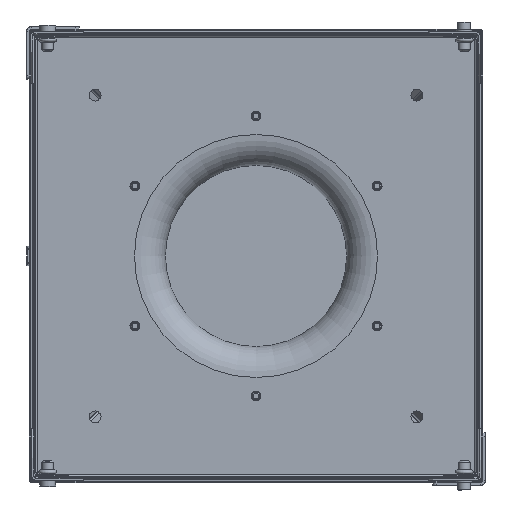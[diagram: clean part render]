
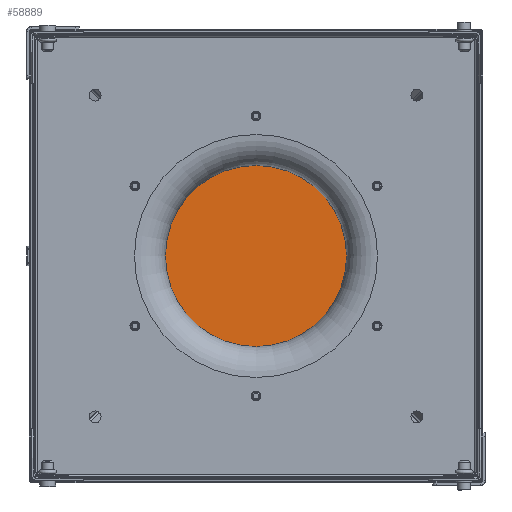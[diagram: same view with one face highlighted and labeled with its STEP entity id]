
A CAD part, front view. The second image highlights one B-rep face of the part: STEP entity #58889.
In plain terms, the highlighted planar face has unit normal (0, -1, 0).
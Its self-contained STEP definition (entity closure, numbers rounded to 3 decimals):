
#1500 = CARTESIAN_POINT ( 'NONE',  ( -70.928, 427.364, 70.928 ) ) ;
#6914 = CARTESIAN_POINT ( 'NONE',  ( 70.928, 427.364, 70.928 ) ) ;
#7425 = CARTESIAN_POINT ( 'NONE',  ( -70.928, 427.364, 70.928 ) ) ;
#9835 = ORIENTED_EDGE ( 'NONE', *, *, #164313, .F. ) ;
#17638 = FACE_OUTER_BOUND ( 'NONE', #130723, .T. ) ;
#19882 = VECTOR ( 'NONE', #128183, 1000. ) ;
#20315 = EDGE_CURVE ( 'NONE', #112600, #26294, #140710, .T. ) ;
#20483 = DIRECTION ( 'NONE',  ( 1., 0., 0. ) ) ;
#26294 = VERTEX_POINT ( 'NONE', #117557 ) ;
#33368 = VECTOR ( 'NONE', #153114, 1000. ) ;
#35486 = ORIENTED_EDGE ( 'NONE', *, *, #112952, .F. ) ;
#39472 = VERTEX_POINT ( 'NONE', #1500 ) ;
#41370 = AXIS2_PLACEMENT_3D ( 'NONE', #145692, #158698, #81269 ) ;
#58889 = ADVANCED_FACE ( 'NONE', ( #17638 ), #68259, .F. ) ;
#62690 = CARTESIAN_POINT ( 'NONE',  ( -70.928, 427.364, -70.928 ) ) ;
#63607 = LINE ( 'NONE', #62690, #33368 ) ;
#68259 = PLANE ( 'NONE',  #41370 ) ;
#71999 = VECTOR ( 'NONE', #80857, 1000. ) ;
#78050 = VERTEX_POINT ( 'NONE', #6914 ) ;
#80857 = DIRECTION ( 'NONE',  ( -1., 0., 0. ) ) ;
#81269 = DIRECTION ( 'NONE',  ( 0., 0., 1. ) ) ;
#89726 = VECTOR ( 'NONE', #20483, 1000. ) ;
#93808 = LINE ( 'NONE', #7425, #89726 ) ;
#112446 = ORIENTED_EDGE ( 'NONE', *, *, #138128, .F. ) ;
#112600 = VERTEX_POINT ( 'NONE', #133953 ) ;
#112952 = EDGE_CURVE ( 'NONE', #78050, #112600, #123025, .T. ) ;
#115135 = CARTESIAN_POINT ( 'NONE',  ( 70.928, 427.364, 70.928 ) ) ;
#117557 = CARTESIAN_POINT ( 'NONE',  ( -70.928, 427.364, -70.928 ) ) ;
#123025 = LINE ( 'NONE', #115135, #19882 ) ;
#126398 = ORIENTED_EDGE ( 'NONE', *, *, #20315, .F. ) ;
#128183 = DIRECTION ( 'NONE',  ( 0., 0., -1. ) ) ;
#130723 = EDGE_LOOP ( 'NONE', ( #9835, #112446, #126398, #35486 ) ) ;
#133953 = CARTESIAN_POINT ( 'NONE',  ( 70.928, 427.364, -70.928 ) ) ;
#138128 = EDGE_CURVE ( 'NONE', #26294, #39472, #63607, .T. ) ;
#140710 = LINE ( 'NONE', #158289, #71999 ) ;
#145692 = CARTESIAN_POINT ( 'NONE',  ( 0., 427.364, 0. ) ) ;
#153114 = DIRECTION ( 'NONE',  ( 0., 0., 1. ) ) ;
#158289 = CARTESIAN_POINT ( 'NONE',  ( 70.928, 427.364, -70.928 ) ) ;
#158698 = DIRECTION ( 'NONE',  ( 0., 1., 0. ) ) ;
#164313 = EDGE_CURVE ( 'NONE', #39472, #78050, #93808, .T. ) ;
